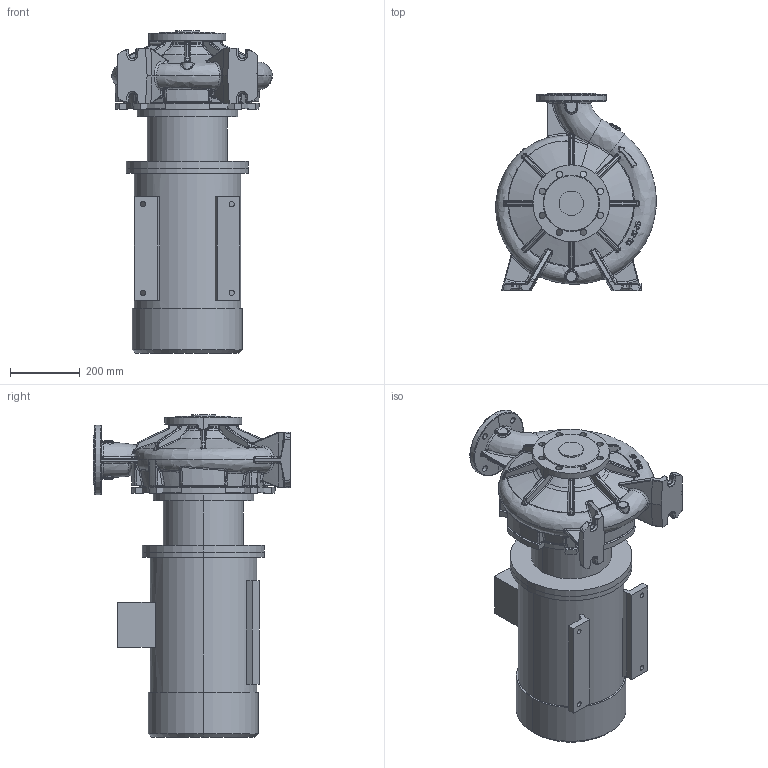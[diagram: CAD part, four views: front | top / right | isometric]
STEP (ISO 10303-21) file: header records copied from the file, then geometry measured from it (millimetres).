
FILE_DESCRIPTION (( 'STEP AP214' ), '1' );
FILE_NAME ('KRM 100-80-315-4-15.STEP', '2026-04-20T08:36:09', ( '' ), ( '' ), 'SwSTEP 2.0', 'SolidWorks 2016', '' );
FILE_SCHEMA (( 'AUTOMOTIVE_DESIGN' ));
Length unit declared in the file: millimetre
Products named in the file (1): KRM 100-80-315-4-15
Bounding box: 459.71 x 565 x 923.8 mm (x, y, z)
Volume: 76289728.6 mm3; surface area: 2393250.1 mm2
Topology: 12 solids, 12 shells, 1518 faces, 3647 edges, 2158 vertices
Faces by surface type: bspline 708, cylinder 312, plane 297, torus 110, cone 76, sphere 15
Entity records: 119997 total; most frequent: CARTESIAN_POINT 73535, ORIENTED_EDGE 7218, DIRECTION 4741, EDGE_CURVE 3609, VERTEX_POINT 2156, AXIS2_PLACEMENT_3D 1939, EDGE_LOOP 1591, UNCERTAINTY_MEASURE_WITH_UNIT 1532
